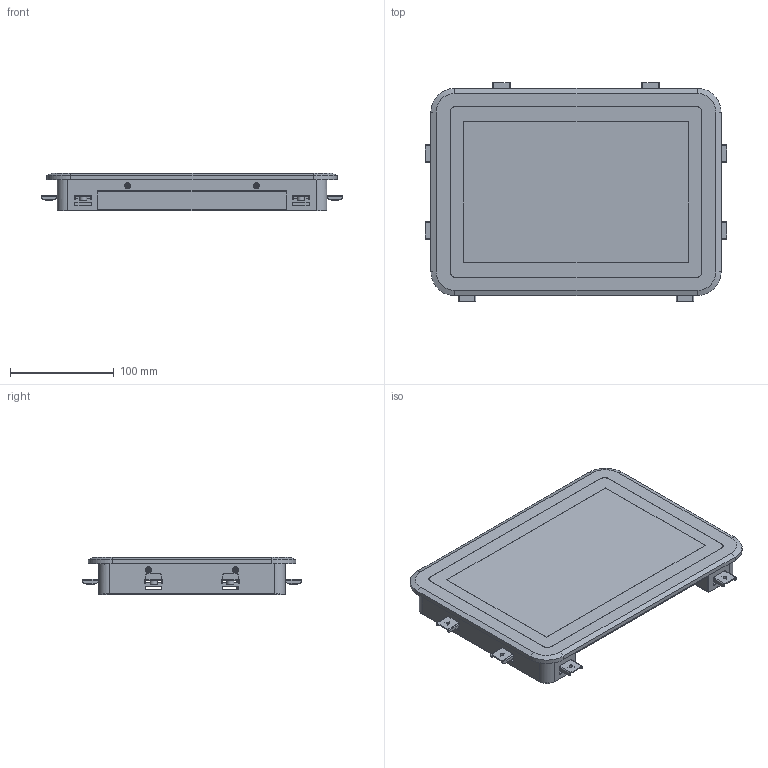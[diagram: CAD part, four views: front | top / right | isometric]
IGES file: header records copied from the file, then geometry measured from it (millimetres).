
Global section: file name: FIE101UM; native system: AutoCAD 2019 – 繁體中文 (Traditional Chinese),62HAutode; preprocessor: sk Translation Framework DWG producer (atf_dwg_producer); organization: unknown; date: 20210622.105753; units: millimetre
Bounding box: 291 x 211 x 36 mm (x, y, z)
Volume: 395817.8 mm3; surface area: 492041.7 mm2
Topology: 17 solids, 17 shells, 1331 faces, 3473 edges, 2306 vertices
Faces by surface type: bspline 1331
